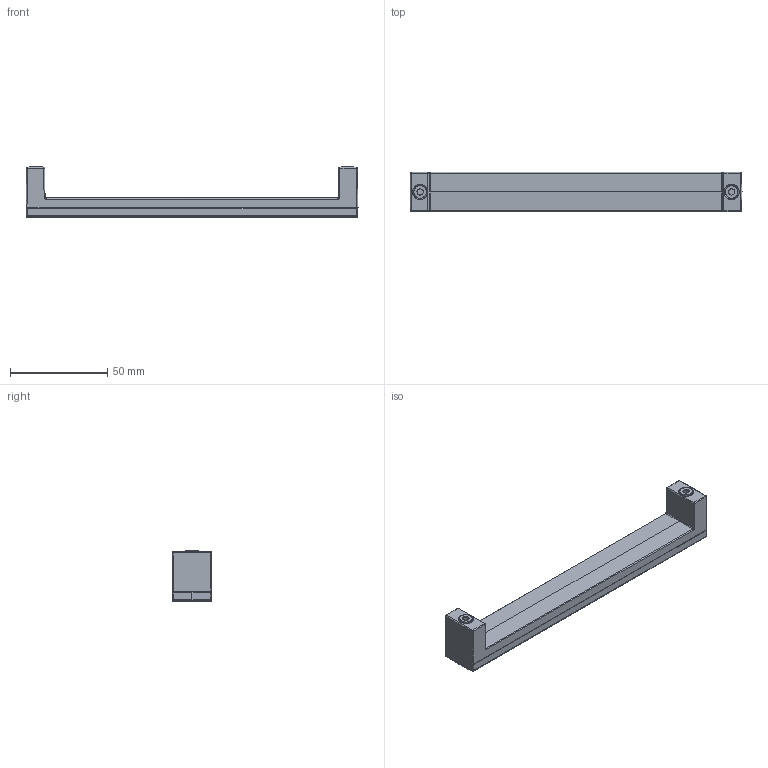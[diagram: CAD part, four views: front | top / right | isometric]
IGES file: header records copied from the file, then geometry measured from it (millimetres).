
Start section: C
Global section: file name: 8233.igs; native system: By Siemens PLM Incorporated; preprocessor: XPlus GENERIC/IGES 16.0.42; author: Author; organization: Title; date: 20231114.124531; units: millimetre
Bounding box: 170.54 x 20.37 x 26.4 mm (x, y, z)
Surface area: 23031.1 mm2 (no closed solid volume)
Topology: 0 solids, 0 shells, 123 faces, 600 edges, 588 vertices
Faces by surface type: bspline 123
